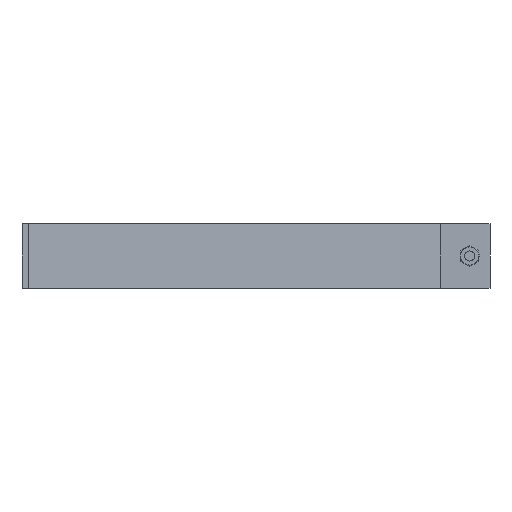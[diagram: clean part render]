
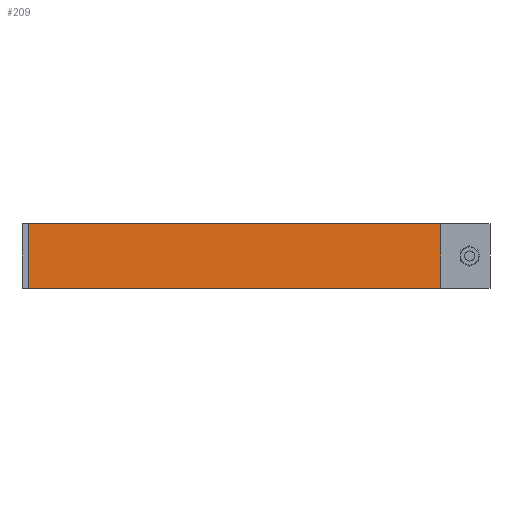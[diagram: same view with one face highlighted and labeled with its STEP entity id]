
A CAD part, front view. The second image highlights one B-rep face of the part: STEP entity #209.
In plain terms, the highlighted planar face has unit normal (0.707, -0.707, 0).
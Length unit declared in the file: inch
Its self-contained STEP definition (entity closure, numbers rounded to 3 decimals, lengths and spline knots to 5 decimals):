
#134 = EDGE_CURVE ( 'NONE', #190, #151, #841, .T. ) ;
#135 = ORIENTED_EDGE ( 'NONE', *, *, #150, .T. ) ;
#150 = EDGE_CURVE ( 'NONE', #151, #176, #711, .T. ) ;
#151 = VERTEX_POINT ( 'NONE', #701 ) ;
#162 = ORIENTED_EDGE ( 'NONE', *, *, #134, .T. ) ;
#171 = EDGE_CURVE ( 'NONE', #190, #191, #736, .T. ) ;
#176 = VERTEX_POINT ( 'NONE', #774 ) ;
#190 = VERTEX_POINT ( 'NONE', #754 ) ;
#191 = VERTEX_POINT ( 'NONE', #753 ) ;
#194 = ORIENTED_EDGE ( 'NONE', *, *, #171, .F. ) ;
#195 = EDGE_LOOP ( 'NONE', ( #196, #194, #162, #135 ) ) ;
#196 = ORIENTED_EDGE ( 'NONE', *, *, #197, .F. ) ;
#197 = EDGE_CURVE ( 'NONE', #191, #176, #834, .T. ) ;
#209 = ADVANCED_FACE ( 'NONE', ( #856 ), #851, .T. ) ;
#701 = CARTESIAN_POINT ( 'NONE',  ( 12.78367, -0.1875, -2. ) ) ;
#703 = DIRECTION ( 'NONE',  ( 0., 0., 1. ) ) ;
#704 = VECTOR ( 'NONE', #703, 39.37008 ) ;
#705 = CARTESIAN_POINT ( 'NONE',  ( 12.78367, -0.1875, -2. ) ) ;
#711 = LINE ( 'NONE', #705, #704 ) ;
#736 = LINE ( 'NONE', #741, #783 ) ;
#741 = CARTESIAN_POINT ( 'NONE',  ( 0., -12.97117, -2. ) ) ;
#751 = DIRECTION ( 'NONE',  ( 0.707, 0.707, 0. ) ) ;
#753 = CARTESIAN_POINT ( 'NONE',  ( 0., -12.97117, 0. ) ) ;
#754 = CARTESIAN_POINT ( 'NONE',  ( 0., -12.97117, -2. ) ) ;
#774 = CARTESIAN_POINT ( 'NONE',  ( 12.78367, -0.1875, 0. ) ) ;
#781 = DIRECTION ( 'NONE',  ( 0., 0., 1. ) ) ;
#783 = VECTOR ( 'NONE', #781, 39.37008 ) ;
#831 = DIRECTION ( 'NONE',  ( 0.707, 0.707, 0. ) ) ;
#832 = VECTOR ( 'NONE', #831, 39.37008 ) ;
#833 = CARTESIAN_POINT ( 'NONE',  ( 12.78367, -0.1875, 0. ) ) ;
#834 = LINE ( 'NONE', #833, #832 ) ;
#839 = VECTOR ( 'NONE', #751, 39.37008 ) ;
#840 = CARTESIAN_POINT ( 'NONE',  ( 12.78367, -0.1875, -2. ) ) ;
#841 = LINE ( 'NONE', #840, #839 ) ;
#845 = CARTESIAN_POINT ( 'NONE',  ( 12.78367, -0.1875, -2. ) ) ;
#846 = AXIS2_PLACEMENT_3D ( 'NONE', #845, #855, #854 ) ;
#851 = PLANE ( 'NONE',  #846 ) ;
#854 = DIRECTION ( 'NONE',  ( 0.707, 0.707, 0. ) ) ;
#855 = DIRECTION ( 'NONE',  ( 0.707, -0.707, 0. ) ) ;
#856 = FACE_OUTER_BOUND ( 'NONE', #195, .T. ) ;
